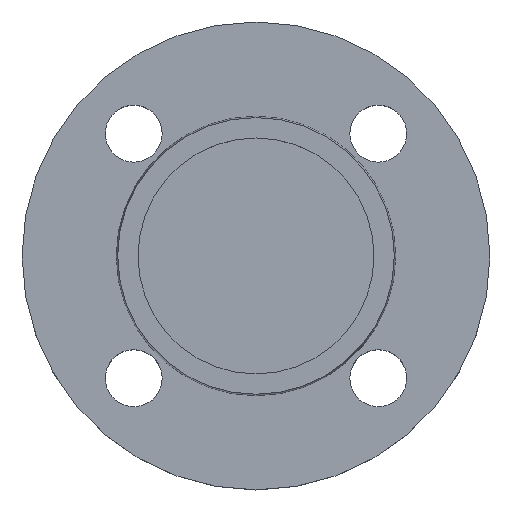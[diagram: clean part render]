
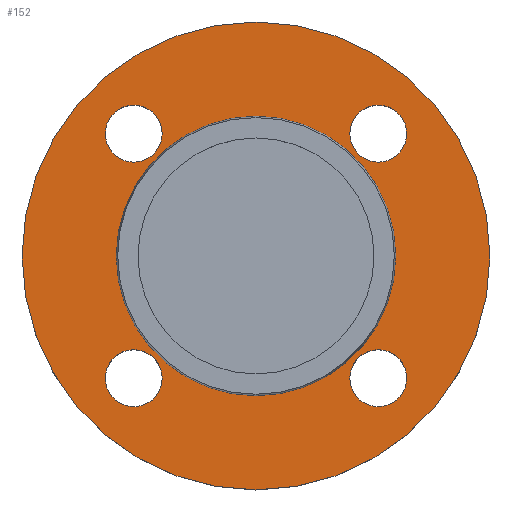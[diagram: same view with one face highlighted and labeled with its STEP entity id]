
A CAD part, top view. The second image highlights one B-rep face of the part: STEP entity #152.
In plain terms, the highlighted planar face has unit normal (0, 0, 1).
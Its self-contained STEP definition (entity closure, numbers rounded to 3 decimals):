
#5 = AXIS2_PLACEMENT_3D ( 'NONE', #586, #587, #588 ) ;
#26 = CARTESIAN_POINT ( 'NONE',  ( -23.052, 30.052, -2. ) ) ;
#27 = CARTESIAN_POINT ( 'NONE',  ( -30.052, -30.052, -2. ) ) ;
#29 = DIRECTION ( 'NONE',  ( 0., 0., -1. ) ) ;
#30 = AXIS2_PLACEMENT_3D ( 'NONE', #418, #419, #420 ) ;
#36 = DIRECTION ( 'NONE',  ( 1., 0., 0. ) ) ;
#37 = CARTESIAN_POINT ( 'NONE',  ( -37.052, -30.052, -2. ) ) ;
#39 = AXIS2_PLACEMENT_3D ( 'NONE', #483, #484, #485 ) ;
#42 = EDGE_CURVE ( 'NONE', #241, #200, #71, .T. ) ;
#43 = AXIS2_PLACEMENT_3D ( 'NONE', #118, #120, #121 ) ;
#59 = EDGE_CURVE ( 'NONE', #240, #292, #167, .T. ) ;
#62 = CIRCLE ( 'NONE', #97, 7. ) ;
#65 = CARTESIAN_POINT ( 'NONE',  ( 57.5, 0., -2. ) ) ;
#69 = CARTESIAN_POINT ( 'NONE',  ( 23.052, -30.052, -2. ) ) ;
#71 = CIRCLE ( 'NONE', #30, 34.353 ) ;
#77 = CARTESIAN_POINT ( 'NONE',  ( -30.052, -30.052, -2. ) ) ;
#78 = DIRECTION ( 'NONE',  ( 0., 0., -1. ) ) ;
#82 = DIRECTION ( 'NONE',  ( 1., 0., 0. ) ) ;
#84 = CARTESIAN_POINT ( 'NONE',  ( -37.052, 30.052, -2. ) ) ;
#94 = CARTESIAN_POINT ( 'NONE',  ( -23.052, -30.052, -2. ) ) ;
#97 = AXIS2_PLACEMENT_3D ( 'NONE', #77, #78, #82 ) ;
#104 = CIRCLE ( 'NONE', #187, 7. ) ;
#118 = CARTESIAN_POINT ( 'NONE',  ( 0., 0., -2. ) ) ;
#120 = DIRECTION ( 'NONE',  ( 0., 0., -1. ) ) ;
#121 = DIRECTION ( 'NONE',  ( -1., 0., 0. ) ) ;
#129 = CIRCLE ( 'NONE', #43, 34.353 ) ;
#137 = EDGE_CURVE ( 'NONE', #280, #354, #104, .T. ) ;
#140 = CIRCLE ( 'NONE', #192, 7. ) ;
#144 = ORIENTED_EDGE ( 'NONE', *, *, #345, .T. ) ;
#145 = ORIENTED_EDGE ( 'NONE', *, *, #284, .T. ) ;
#147 = AXIS2_PLACEMENT_3D ( 'NONE', #533, #534, #536 ) ;
#152 = ADVANCED_FACE ( 'NONE', ( #476, #477, #478, #479, #480, #481 ), #482, .T. ) ;
#153 = CIRCLE ( 'NONE', #183, 7. ) ;
#160 = CIRCLE ( 'NONE', #147, 7. ) ;
#163 = AXIS2_PLACEMENT_3D ( 'NONE', #421, #422, #423 ) ;
#164 = AXIS2_PLACEMENT_3D ( 'NONE', #27, #29, #36 ) ;
#167 = CIRCLE ( 'NONE', #163, 57.5 ) ;
#169 = CIRCLE ( 'NONE', #344, 57.5 ) ;
#175 = EDGE_CURVE ( 'NONE', #292, #240, #169, .T. ) ;
#183 = AXIS2_PLACEMENT_3D ( 'NONE', #583, #584, #585 ) ;
#187 = AXIS2_PLACEMENT_3D ( 'NONE', #448, #462, #463 ) ;
#192 = AXIS2_PLACEMENT_3D ( 'NONE', #537, #538, #539 ) ;
#195 = VERTEX_POINT ( 'NONE', #522 ) ;
#200 = VERTEX_POINT ( 'NONE', #526 ) ;
#207 = EDGE_LOOP ( 'NONE', ( #304, #307 ) ) ;
#210 = EDGE_CURVE ( 'NONE', #354, #280, #160, .T. ) ;
#213 = EDGE_CURVE ( 'NONE', #306, #224, #140, .T. ) ;
#224 = VERTEX_POINT ( 'NONE', #540 ) ;
#226 = VERTEX_POINT ( 'NONE', #541 ) ;
#231 = EDGE_LOOP ( 'NONE', ( #302, #303 ) ) ;
#240 = VERTEX_POINT ( 'NONE', #556 ) ;
#241 = VERTEX_POINT ( 'NONE', #557 ) ;
#250 = EDGE_CURVE ( 'NONE', #226, #195, #153, .T. ) ;
#251 = EDGE_CURVE ( 'NONE', #195, #226, #535, .T. ) ;
#256 = EDGE_CURVE ( 'NONE', #224, #306, #544, .T. ) ;
#280 = VERTEX_POINT ( 'NONE', #26 ) ;
#284 = EDGE_CURVE ( 'NONE', #373, #285, #531, .T. ) ;
#285 = VERTEX_POINT ( 'NONE', #37 ) ;
#287 = EDGE_LOOP ( 'NONE', ( #296, #297 ) ) ;
#292 = VERTEX_POINT ( 'NONE', #65 ) ;
#296 = ORIENTED_EDGE ( 'NONE', *, *, #256, .T. ) ;
#297 = ORIENTED_EDGE ( 'NONE', *, *, #213, .T. ) ;
#299 = ORIENTED_EDGE ( 'NONE', *, *, #137, .T. ) ;
#300 = ORIENTED_EDGE ( 'NONE', *, *, #210, .T. ) ;
#302 = ORIENTED_EDGE ( 'NONE', *, *, #251, .T. ) ;
#303 = ORIENTED_EDGE ( 'NONE', *, *, #250, .T. ) ;
#304 = ORIENTED_EDGE ( 'NONE', *, *, #42, .T. ) ;
#306 = VERTEX_POINT ( 'NONE', #69 ) ;
#307 = ORIENTED_EDGE ( 'NONE', *, *, #498, .T. ) ;
#309 = ORIENTED_EDGE ( 'NONE', *, *, #175, .F. ) ;
#311 = ORIENTED_EDGE ( 'NONE', *, *, #59, .F. ) ;
#316 = EDGE_LOOP ( 'NONE', ( #145, #144 ) ) ;
#344 = AXIS2_PLACEMENT_3D ( 'NONE', #510, #511, #513 ) ;
#345 = EDGE_CURVE ( 'NONE', #285, #373, #62, .T. ) ;
#353 = AXIS2_PLACEMENT_3D ( 'NONE', #592, #593, #594 ) ;
#354 = VERTEX_POINT ( 'NONE', #84 ) ;
#358 = EDGE_LOOP ( 'NONE', ( #309, #311 ) ) ;
#370 = EDGE_LOOP ( 'NONE', ( #299, #300 ) ) ;
#373 = VERTEX_POINT ( 'NONE', #94 ) ;
#418 = CARTESIAN_POINT ( 'NONE',  ( 0., 0., -2. ) ) ;
#419 = DIRECTION ( 'NONE',  ( 0., 0., -1. ) ) ;
#420 = DIRECTION ( 'NONE',  ( -1., 0., 0. ) ) ;
#421 = CARTESIAN_POINT ( 'NONE',  ( 0., 0., -2. ) ) ;
#422 = DIRECTION ( 'NONE',  ( 0., 0., -1. ) ) ;
#423 = DIRECTION ( 'NONE',  ( -1., 0., 0. ) ) ;
#448 = CARTESIAN_POINT ( 'NONE',  ( -30.052, 30.052, -2. ) ) ;
#462 = DIRECTION ( 'NONE',  ( 0., 0., -1. ) ) ;
#463 = DIRECTION ( 'NONE',  ( 1., 0., 0. ) ) ;
#476 = FACE_BOUND ( 'NONE', #287, .T. ) ;
#477 = FACE_BOUND ( 'NONE', #316, .T. ) ;
#478 = FACE_BOUND ( 'NONE', #370, .T. ) ;
#479 = FACE_BOUND ( 'NONE', #231, .T. ) ;
#480 = FACE_BOUND ( 'NONE', #207, .T. ) ;
#481 = FACE_OUTER_BOUND ( 'NONE', #358, .T. ) ;
#482 = PLANE ( 'NONE',  #39 ) ;
#483 = CARTESIAN_POINT ( 'NONE',  ( 34.353, 0., -2. ) ) ;
#484 = DIRECTION ( 'NONE',  ( 0., 0., 1. ) ) ;
#485 = DIRECTION ( 'NONE',  ( 1., 0., 0. ) ) ;
#498 = EDGE_CURVE ( 'NONE', #200, #241, #129, .T. ) ;
#510 = CARTESIAN_POINT ( 'NONE',  ( 0., 0., -2. ) ) ;
#511 = DIRECTION ( 'NONE',  ( 0., 0., -1. ) ) ;
#513 = DIRECTION ( 'NONE',  ( -1., 0., 0. ) ) ;
#522 = CARTESIAN_POINT ( 'NONE',  ( 37.052, 30.052, -2. ) ) ;
#526 = CARTESIAN_POINT ( 'NONE',  ( 34.353, 0., -2. ) ) ;
#531 = CIRCLE ( 'NONE', #164, 7. ) ;
#533 = CARTESIAN_POINT ( 'NONE',  ( -30.052, 30.052, -2. ) ) ;
#534 = DIRECTION ( 'NONE',  ( 0., 0., -1. ) ) ;
#535 = CIRCLE ( 'NONE', #5, 7. ) ;
#536 = DIRECTION ( 'NONE',  ( 1., 0., 0. ) ) ;
#537 = CARTESIAN_POINT ( 'NONE',  ( 30.052, -30.052, -2. ) ) ;
#538 = DIRECTION ( 'NONE',  ( 0., 0., -1. ) ) ;
#539 = DIRECTION ( 'NONE',  ( 1., 0., 0. ) ) ;
#540 = CARTESIAN_POINT ( 'NONE',  ( 37.052, -30.052, -2. ) ) ;
#541 = CARTESIAN_POINT ( 'NONE',  ( 23.052, 30.052, -2. ) ) ;
#544 = CIRCLE ( 'NONE', #353, 7. ) ;
#556 = CARTESIAN_POINT ( 'NONE',  ( -57.5, 0., -2. ) ) ;
#557 = CARTESIAN_POINT ( 'NONE',  ( -34.353, 0., -2. ) ) ;
#583 = CARTESIAN_POINT ( 'NONE',  ( 30.052, 30.052, -2. ) ) ;
#584 = DIRECTION ( 'NONE',  ( 0., 0., -1. ) ) ;
#585 = DIRECTION ( 'NONE',  ( 1., 0., 0. ) ) ;
#586 = CARTESIAN_POINT ( 'NONE',  ( 30.052, 30.052, -2. ) ) ;
#587 = DIRECTION ( 'NONE',  ( 0., 0., -1. ) ) ;
#588 = DIRECTION ( 'NONE',  ( 1., 0., 0. ) ) ;
#592 = CARTESIAN_POINT ( 'NONE',  ( 30.052, -30.052, -2. ) ) ;
#593 = DIRECTION ( 'NONE',  ( 0., 0., -1. ) ) ;
#594 = DIRECTION ( 'NONE',  ( 1., 0., 0. ) ) ;
